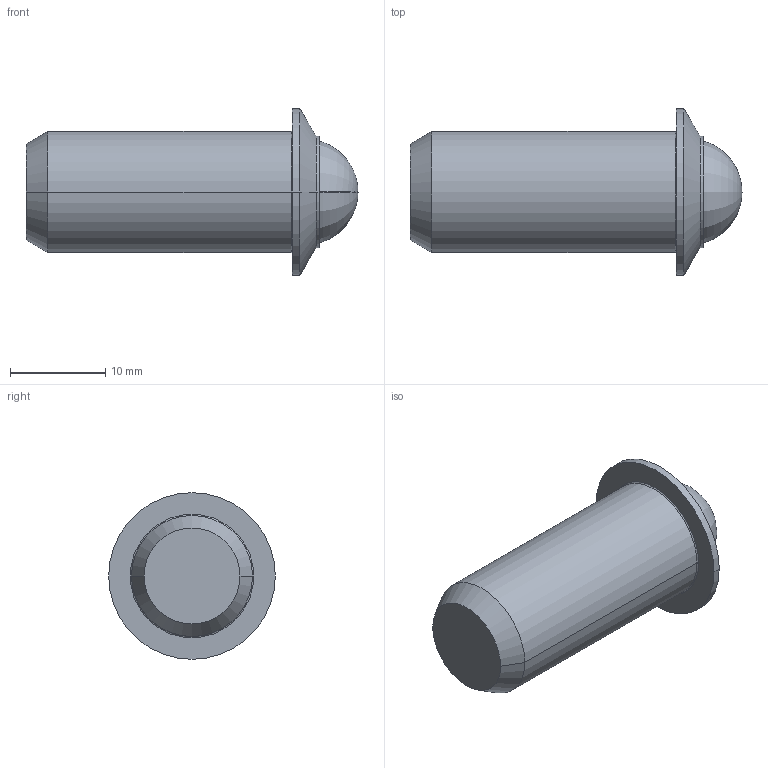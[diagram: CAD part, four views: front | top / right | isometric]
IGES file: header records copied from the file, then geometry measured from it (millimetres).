
Start section:  PTC IGES file: pfb60-part-3d.igs
Global section: file name: pfb60-part-3d.igs; native system: Pro/ENGINEER by Parametric Technology Corporation; preprocessor: 2002350; author: chant; organization: Unknown; date: 070202.083555; units: inch
Bounding box: 34.82 x 17.48 x 17.48 mm (x, y, z)
Surface area: 2808 mm2 (no closed solid volume)
Topology: 0 solids, 0 shells, 20 faces, 101 edges, 111 vertices
Faces by surface type: revolution 16, bspline 4
